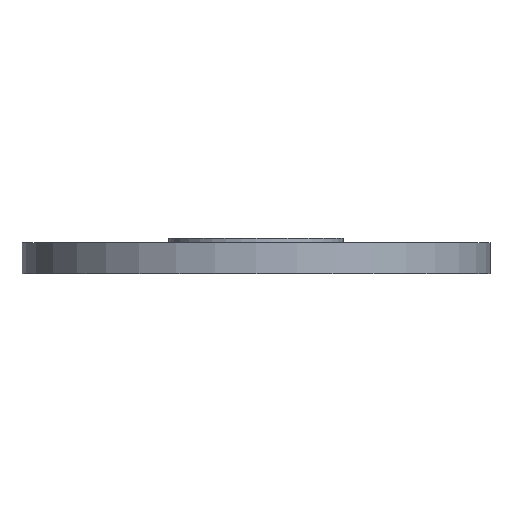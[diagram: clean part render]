
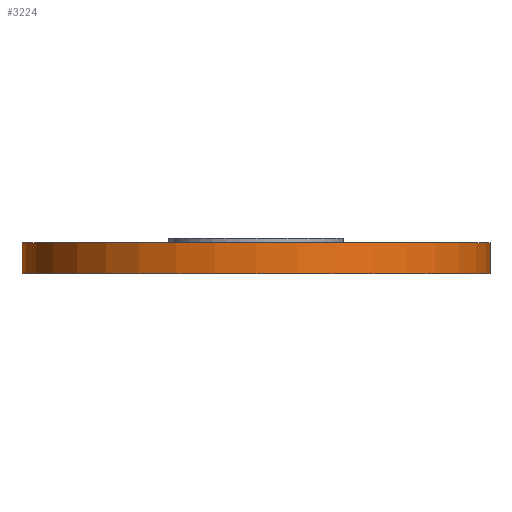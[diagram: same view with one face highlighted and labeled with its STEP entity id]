
A CAD part, front view. The second image highlights one B-rep face of the part: STEP entity #3224.
In plain terms, the highlighted cylindrical face has radius 15 mm (diameter 30 mm), a partial arc.
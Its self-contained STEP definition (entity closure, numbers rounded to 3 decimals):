
#88 = LINE ( 'NONE', #1217, #2540 ) ;
#110 = EDGE_CURVE ( 'NONE', #1917, #974, #354, .T. ) ;
#265 = AXIS2_PLACEMENT_3D ( 'NONE', #1998, #3114, #612 ) ;
#341 = EDGE_CURVE ( 'NONE', #3037, #1917, #3135, .T. ) ;
#354 = CIRCLE ( 'NONE', #558, 15. ) ;
#427 = DIRECTION ( 'NONE',  ( 1., 0., 0. ) ) ;
#439 = ORIENTED_EDGE ( 'NONE', *, *, #341, .F. ) ;
#558 = AXIS2_PLACEMENT_3D ( 'NONE', #3564, #1067, #2169 ) ;
#612 = DIRECTION ( 'NONE',  ( 1., 0., 0. ) ) ;
#635 = CARTESIAN_POINT ( 'NONE',  ( -15., 0., -8. ) ) ;
#708 = CYLINDRICAL_SURFACE ( 'NONE', #1695, 15. ) ;
#874 = CARTESIAN_POINT ( 'NONE',  ( -15., 0., 0. ) ) ;
#936 = ORIENTED_EDGE ( 'NONE', *, *, #2240, .T. ) ;
#974 = VERTEX_POINT ( 'NONE', #2079 ) ;
#1067 = DIRECTION ( 'NONE',  ( 0., 0., 1. ) ) ;
#1146 = ORIENTED_EDGE ( 'NONE', *, *, #2799, .T. ) ;
#1155 = CARTESIAN_POINT ( 'NONE',  ( -15., 0., 2. ) ) ;
#1217 = CARTESIAN_POINT ( 'NONE',  ( 15., 0., -8. ) ) ;
#1695 = AXIS2_PLACEMENT_3D ( 'NONE', #1819, #2934, #427 ) ;
#1746 = DIRECTION ( 'NONE',  ( 0., 0., 1. ) ) ;
#1819 = CARTESIAN_POINT ( 'NONE',  ( 0., 0., -8. ) ) ;
#1842 = CIRCLE ( 'NONE', #265, 15. ) ;
#1917 = VERTEX_POINT ( 'NONE', #1155 ) ;
#1980 = CARTESIAN_POINT ( 'NONE',  ( 15., 0., 0. ) ) ;
#1998 = CARTESIAN_POINT ( 'NONE',  ( 0., 0., 0. ) ) ;
#2079 = CARTESIAN_POINT ( 'NONE',  ( 15., 0., 2. ) ) ;
#2169 = DIRECTION ( 'NONE',  ( 1., 0., 0. ) ) ;
#2207 = VERTEX_POINT ( 'NONE', #1980 ) ;
#2240 = EDGE_CURVE ( 'NONE', #3037, #2207, #1842, .T. ) ;
#2323 = DIRECTION ( 'NONE',  ( 0., 0., 1. ) ) ;
#2540 = VECTOR ( 'NONE', #2323, 1000. ) ;
#2578 = ORIENTED_EDGE ( 'NONE', *, *, #110, .F. ) ;
#2799 = EDGE_CURVE ( 'NONE', #2207, #974, #88, .T. ) ;
#2934 = DIRECTION ( 'NONE',  ( 0., 0., 1. ) ) ;
#3037 = VERTEX_POINT ( 'NONE', #874 ) ;
#3114 = DIRECTION ( 'NONE',  ( 0., 0., 1. ) ) ;
#3135 = LINE ( 'NONE', #635, #3327 ) ;
#3207 = FACE_OUTER_BOUND ( 'NONE', #3477, .T. ) ;
#3224 = ADVANCED_FACE ( 'NONE', ( #3207 ), #708, .T. ) ;
#3327 = VECTOR ( 'NONE', #1746, 1000. ) ;
#3477 = EDGE_LOOP ( 'NONE', ( #439, #936, #1146, #2578 ) ) ;
#3564 = CARTESIAN_POINT ( 'NONE',  ( 0., 0., 2. ) ) ;
